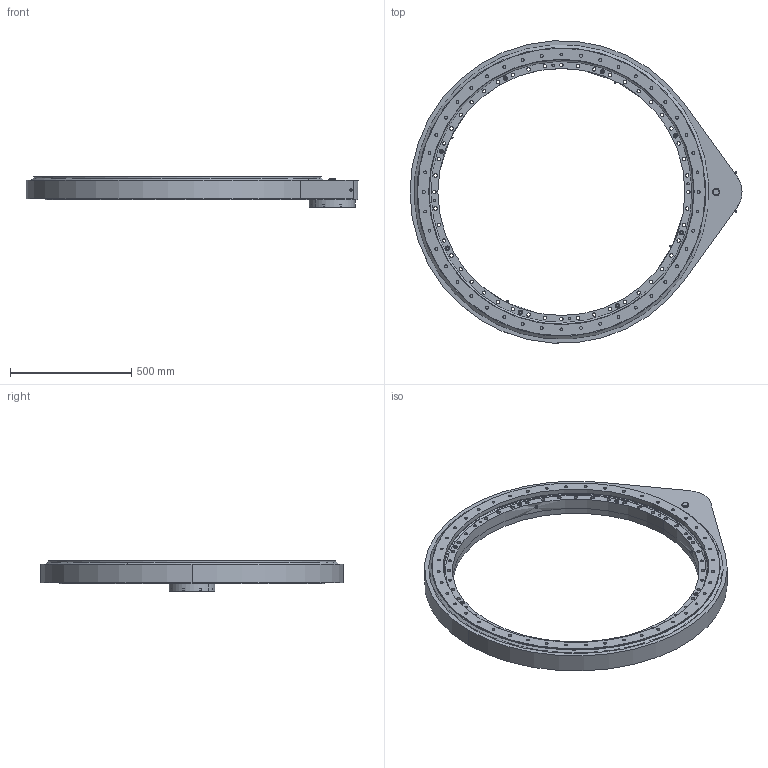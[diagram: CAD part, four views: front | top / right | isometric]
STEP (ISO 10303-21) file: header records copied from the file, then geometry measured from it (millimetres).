
FILE_DESCRIPTION (( 'STEP AP214' ), '1' );
FILE_NAME ('21091.STEP', '2023-03-18T04:27:39', ( '' ), ( '' ), 'SwSTEP 2.0', 'SolidWorks 2021', '' );
FILE_SCHEMA (( 'AUTOMOTIVE_DESIGN' ));
Length unit declared in the file: millimetre
Products named in the file (1): 21091
Bounding box: 1370.5 x 1247.72 x 125 mm (x, y, z)
Surface area: 2115085 mm2 (no closed solid volume)
Topology: 0 solids, 65 shells, 584 faces, 1955 edges, 1405 vertices
Faces by surface type: cylinder 364, plane 134, torus 52, cone 26, sphere 8
Entity records: 29206 total; most frequent: CARTESIAN_POINT 4740, DIRECTION 4127, ORIENTED_EDGE 3138, EDGE_CURVE 1923, AXIS2_PLACEMENT_3D 1708, VERTEX_POINT 1389, CIRCLE 1123, EDGE_LOOP 934
